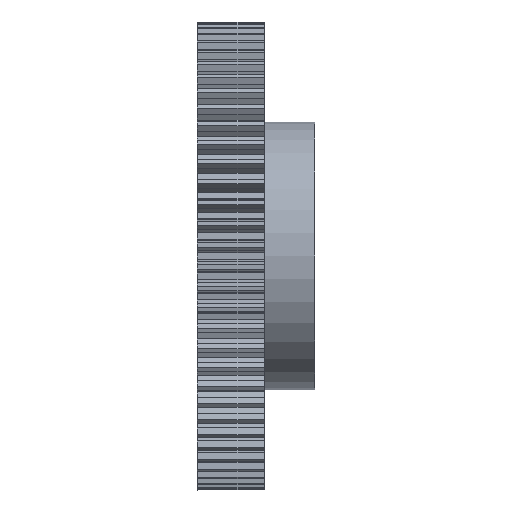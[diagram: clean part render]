
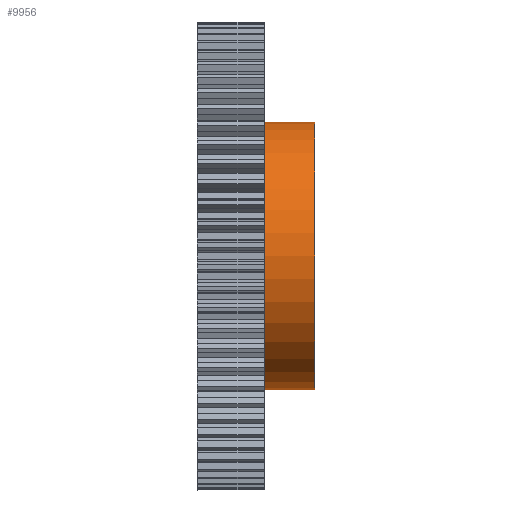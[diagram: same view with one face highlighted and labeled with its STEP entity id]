
A CAD part, front view. The second image highlights one B-rep face of the part: STEP entity #9956.
In plain terms, the highlighted cylindrical face has radius 40 mm (diameter 80 mm), a partial arc.
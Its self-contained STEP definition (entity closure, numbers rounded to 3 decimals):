
#1636 = EDGE_CURVE ( 'NONE', #10886, #10737, #7201, .T. ) ;
#7201 = CIRCLE ( 'NONE', #7211, 40. ) ;
#7209 = DIRECTION ( 'NONE',  ( 0., 0., 1. ) ) ;
#7210 = DIRECTION ( 'NONE',  ( 1., 0., 0. ) ) ;
#7211 = AXIS2_PLACEMENT_3D ( 'NONE', #7231, #7210, #7209 ) ;
#7231 = CARTESIAN_POINT ( 'NONE',  ( 10., 0., 0. ) ) ;
#9356 = EDGE_CURVE ( 'NONE', #10731, #10736, #12729, .T. ) ;
#9899 = ORIENTED_EDGE ( 'NONE', *, *, #10807, .F. ) ;
#9908 = EDGE_LOOP ( 'NONE', ( #9899, #9952, #9953, #9935 ) ) ;
#9935 = ORIENTED_EDGE ( 'NONE', *, *, #1636, .T. ) ;
#9952 = ORIENTED_EDGE ( 'NONE', *, *, #9356, .T. ) ;
#9953 = ORIENTED_EDGE ( 'NONE', *, *, #10970, .T. ) ;
#9956 = ADVANCED_FACE ( 'NONE', ( #13555 ), #13562, .T. ) ;
#10731 = VERTEX_POINT ( 'NONE', #13425 ) ;
#10736 = VERTEX_POINT ( 'NONE', #13428 ) ;
#10737 = VERTEX_POINT ( 'NONE', #13433 ) ;
#10807 = EDGE_CURVE ( 'NONE', #10731, #10737, #13708, .T. ) ;
#10886 = VERTEX_POINT ( 'NONE', #13718 ) ;
#10970 = EDGE_CURVE ( 'NONE', #10736, #10886, #13699, .T. ) ;
#12713 = DIRECTION ( 'NONE',  ( 0., 0., 1. ) ) ;
#12714 = AXIS2_PLACEMENT_3D ( 'NONE', #12721, #12725, #12713 ) ;
#12721 = CARTESIAN_POINT ( 'NONE',  ( 25., 0., 0. ) ) ;
#12725 = DIRECTION ( 'NONE',  ( -1., 0., 0. ) ) ;
#12729 = CIRCLE ( 'NONE', #12714, 40. ) ;
#13425 = CARTESIAN_POINT ( 'NONE',  ( 25., 0., -40. ) ) ;
#13428 = CARTESIAN_POINT ( 'NONE',  ( 25., 0., 40. ) ) ;
#13433 = CARTESIAN_POINT ( 'NONE',  ( 10., 0., -40. ) ) ;
#13545 = DIRECTION ( 'NONE',  ( 0., 0., 1. ) ) ;
#13546 = DIRECTION ( 'NONE',  ( -1., 0., 0. ) ) ;
#13547 = CARTESIAN_POINT ( 'NONE',  ( 10., 0., 0. ) ) ;
#13551 = AXIS2_PLACEMENT_3D ( 'NONE', #13547, #13546, #13545 ) ;
#13555 = FACE_OUTER_BOUND ( 'NONE', #9908, .T. ) ;
#13562 = CYLINDRICAL_SURFACE ( 'NONE', #13551, 40. ) ;
#13698 = CARTESIAN_POINT ( 'NONE',  ( 10., 0., 40. ) ) ;
#13699 = LINE ( 'NONE', #13698, #13738 ) ;
#13705 = DIRECTION ( 'NONE',  ( -1., 0., 0. ) ) ;
#13706 = VECTOR ( 'NONE', #13705, 1000. ) ;
#13707 = CARTESIAN_POINT ( 'NONE',  ( 10., 0., -40. ) ) ;
#13708 = LINE ( 'NONE', #13707, #13706 ) ;
#13718 = CARTESIAN_POINT ( 'NONE',  ( 10., 0., 40. ) ) ;
#13737 = DIRECTION ( 'NONE',  ( -1., 0., 0. ) ) ;
#13738 = VECTOR ( 'NONE', #13737, 1000. ) ;
